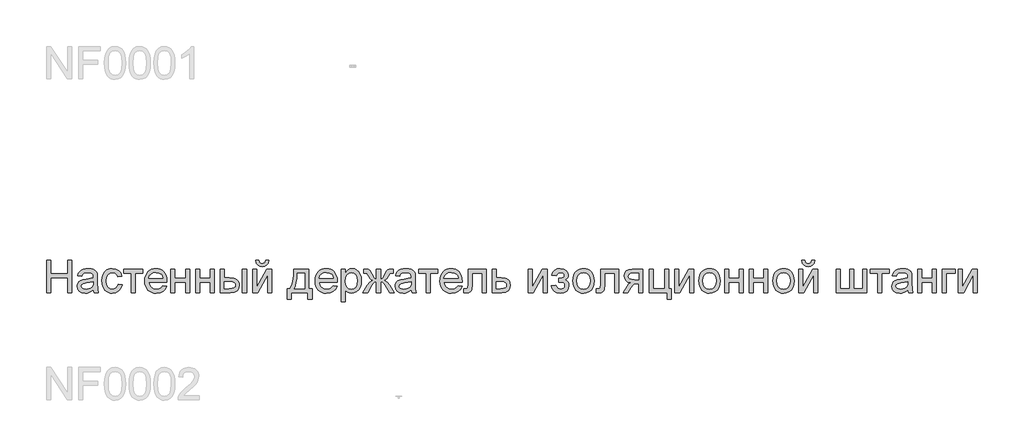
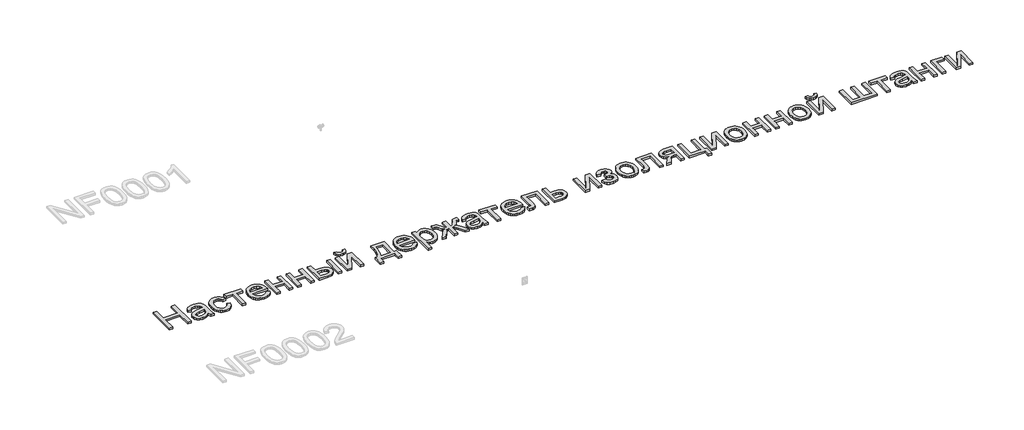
# One storey, part 35 of 124: 1 proxy.
"""IFC4 building model written with IfcOpenShell, lengths in millimetres."""

from ifc_helpers import new_model, si_unit, origin, origin_with_axes, place, context, project, spatial, polyline, outline, extrude, element, save

model = new_model("IFC4")

# Units and contexts
model_context = context("Model", 3, world=origin())
ifc_project = project(units=[si_unit("LENGTHUNIT", "METRE", prefix="MILLI")], contexts=[model_context])

# Site, building, storey
site = spatial("IfcSite", under=ifc_project)
building = spatial("IfcBuilding", under=site)
storey = spatial("IfcBuildingStorey", under=building, Name="Этаж 01", Elevation=0.0)

# Proxy
placement = place(None, origin())
element("IfcBuildingElementProxy", 1, Name="300", ObjectType="300", at=placement, inside=storey, context=model_context, shape_type="SweptSolid", body=[
    extrude(outline(polyline([(25399.8220677, -95548.8731539), (25399.8220677, -95247.5042234), (25437.493184, -95247.5042234), (25437.493184, -95369.9353514), (25597.5954283, -95369.9353514), (25597.5954283, -95247.5042234), (25635.2665446, -95247.5042234), (25635.2665446, -95548.8731539), (25597.5954283, -95548.8731539), (25597.5954283, -95407.6064677), (25437.493184, -95407.6064677), (25437.493184, -95548.8731539), (25399.8220677, -95548.8731539)])), origin_with_axes(), (0.0, 0.0, 1.0), 20.0),
    extrude(outline(polyline([(25837.7487948, -95520.6198167), (25819.7501681, -95536.0524664), (25801.2181126, -95546.1508271), (25781.7295639, -95551.7242393), (25760.8614578, -95553.5820434), (25729.379956, -95549.1122772), (25706.1574051, -95535.7029785), (25691.8375984, -95515.34071), (25687.0643295, -95490.0120347), (25688.8669513, -95474.395444), (25694.2748166, -95460.213593), (25702.6165409, -95448.0734872), (25713.2207394, -95438.5821317), (25739.5978784, -95426.2212967), (25772.1922232, -95420.555914), (25810.7094681, -95414.5962256), (25837.5280656, -95407.6064677), (25837.7487948, -95399.2187582), (25835.1552267, -95382.4065511), (25827.3745225, -95371.4068794), (25809.9737041, -95363.2398991), (25785.7302806, -95360.5175724), (25763.2894789, -95362.3293912), (25747.6177059, -95367.7648477), (25736.930734, -95377.8172232), (25729.4443354, -95393.4797991), (25691.7732191, -95388.7709096), (25698.3123215, -95368.1695179), (25708.0703915, -95351.9827101), (25721.9579368, -95339.6034809), (25740.8854654, -95330.4248251), (25764.03444, -95324.7410483), (25790.586323, -95322.846456), (25816.0529541, -95324.5203191), (25836.2404786, -95329.5419084), (25851.4615961, -95337.0926863), (25862.0290064, -95346.3541155), (25869.0371584, -95357.8044426), (25873.5805011, -95371.9219142), (25875.4199111, -95404.884141), (25875.4199111, -95451.7523072), (25877.3328974, -95517.1985141), (25884.8376901, -95548.8731539), (25847.1665738, -95548.8731539), (25837.7487948, -95520.6198167)]), holes=[polyline([(25837.7487948, -95445.277584), (25776.9746891, -95456.8290787), (25744.5642854, -95462.9359198), (25729.8857938, -95472.8687337), (25724.7354458, -95487.3632843), (25727.540546, -95498.565291), (25735.9558467, -95507.7439468), (25749.7974068, -95513.869182), (25768.8812853, -95515.9109271), (25789.114795, -95513.6576499), (25806.99386, -95506.8978182), (25821.4884106, -95496.9374132), (25831.5683772, -95485.0824159), (25836.0381435, -95472.8687337), (25837.5280656, -95455.9461619), (25837.7487948, -95445.277584)])]), origin_with_axes(), (0.0, 0.0, 1.0), 20.0),
    extrude(outline(polyline([(26068.4843821, -95468.8220317), (26106.1554984, -95473.5309213), (26095.6524675, -95507.035774), (26075.9155984, -95532.3552523), (26048.8026954, -95548.2753456), (26016.1715624, -95553.5820434), (25995.0436396, -95551.7311371), (25976.1000161, -95546.1784183), (25959.3406919, -95536.9238868), (25944.7656671, -95523.9675428), (25932.9681514, -95507.553108), (25924.5413545, -95487.9243043), (25919.4852763, -95465.0811317), (25917.7999169, -95439.0235901), (25920.6785935, -95405.5003433), (25929.3146234, -95376.4468627), (25943.8459622, -95352.9851885), (25964.4105657, -95336.2373607), (25989.0126741, -95326.1941822), (26015.6565276, -95322.846456), (26047.4875173, -95327.444981), (26072.9357543, -95341.2405558), (26091.1918983, -95363.4974165), (26101.4466089, -95393.4797991), (26063.7754926, -95398.1886887), (26056.9420845, -95381.7535605), (26046.3010978, -95369.9721396), (26032.4411436, -95362.8812142), (26015.9508332, -95360.5175724), (25991.6062422, -95365.1712796), (25972.2832404, -95379.1324013), (25959.674085, -95403.1550956), (25955.4710332, -95437.9935205), (25959.5821145, -95473.300995), (25971.9153584, -95497.4064628), (25990.8888723, -95511.284811), (26014.9207636, -95515.9109271), (26034.4277064, -95513.0230535), (26050.4213762, -95504.3594325), (26062.0556443, -95489.699335), (26068.4843821, -95468.8220317)])), origin_with_axes(), (0.0, 0.0, 1.0), 20.0),
    extrude(outline(polyline([(26120.282167, -95327.5553456), (26299.2199695, -95327.5553456), (26299.2199695, -95365.2264619), (26228.5866264, -95365.2264619), (26228.5866264, -95548.8731539), (26190.9155101, -95548.8731539), (26190.9155101, -95365.2264619), (26120.282167, -95365.2264619), (26120.282167, -95327.5553456)])), origin_with_axes(), (0.0, 0.0, 1.0), 20.0),
    extrude(outline(polyline([(26487.1340926, -95482.9487003), (26524.069445, -95487.6575899), (26510.7613138, -95515.4878628), (26489.5253256, -95536.2915897), (26460.839727, -95549.25943), (26425.1827647, -95553.5820434), (26401.8084624, -95551.7173416), (26380.9817429, -95546.123236), (26362.7026063, -95536.7997267), (26346.9710525, -95523.7468136), (26334.3205104, -95507.3277803), (26325.2844089, -95487.9059102), (26319.862748, -95465.4812034), (26318.0555277, -95440.0536597), (26319.8811421, -95413.7638926), (26325.3579853, -95390.5919255), (26334.4860573, -95370.5377582), (26347.2653581, -95353.6013908), (26362.9555252, -95340.1461069), (26380.816196, -95330.5351897), (26400.8473707, -95324.7686395), (26423.0490491, -95322.846456), (26444.5356569, -95324.7640409), (26463.966724, -95330.5167956), (26481.3422505, -95340.1047201), (26496.6622363, -95353.5278144), (26509.1679249, -95370.4273936), (26518.1005596, -95390.4447727), (26523.4601404, -95413.5799516), (26525.2466673, -95439.8329305), (26525.0259381, -95449.9864736), (26355.726644, -95449.9864736), (26362.2473523, -95478.1846285), (26377.3948935, -95498.9147789), (26399.256281, -95511.6618901), (26425.9185286, -95515.9109271), (26445.9680974, -95513.9427584), (26462.853881, -95508.0382524), (26476.5758794, -95497.8295271), (26487.1340926, -95482.9487003)]), holes=[polyline([(26355.726644, -95412.3153573), (26487.575551, -95412.3153573), (26482.4803854, -95392.4129413), (26472.4923892, -95378.1759081), (26450.5298341, -95364.9321563), (26422.9018963, -95360.5175724), (26397.5088416, -95364.0400425), (26376.5119767, -95374.6074528), (26361.9162585, -95391.0793691), (26355.726644, -95412.3153573)])]), origin_with_axes(), (0.0, 0.0, 1.0), 20.0),
    extrude(outline(polyline([(26562.9177836, -95327.5553456), (26600.5889, -95327.5553456), (26600.5889, -95412.3153573), (26699.4755803, -95412.3153573), (26699.4755803, -95327.5553456), (26737.1466966, -95327.5553456), (26737.1466966, -95548.8731539), (26699.4755803, -95548.8731539), (26699.4755803, -95449.9864736), (26600.5889, -95449.9864736), (26600.5889, -95548.8731539), (26562.9177836, -95548.8731539), (26562.9177836, -95327.5553456)])), origin_with_axes(), (0.0, 0.0, 1.0), 20.0),
    extrude(outline(polyline([(26793.653371, -95327.5553456), (26831.3244873, -95327.5553456), (26831.3244873, -95412.3153573), (26930.2111676, -95412.3153573), (26930.2111676, -95327.5553456), (26967.8822839, -95327.5553456), (26967.8822839, -95548.8731539), (26930.2111676, -95548.8731539), (26930.2111676, -95449.9864736), (26831.3244873, -95449.9864736), (26831.3244873, -95548.8731539), (26793.653371, -95548.8731539), (26793.653371, -95327.5553456)])), origin_with_axes(), (0.0, 0.0, 1.0), 20.0),
    extrude(outline(polyline([(27231.5800981, -95327.5553456), (27269.2512144, -95327.5553456), (27269.2512144, -95548.8731539), (27231.5800981, -95548.8731539), (27231.5800981, -95327.5553456)])), origin_with_axes(), (0.0, 0.0, 1.0), 20.0),
    extrude(outline(polyline([(27024.3889584, -95327.5553456), (27062.0600747, -95327.5553456), (27062.0600747, -95407.6064677), (27108.6339353, -95407.6064677), (27148.8894226, -95412.3245543), (27165.1061208, -95418.2221626), (27178.7154554, -95426.4788141), (27189.4829015, -95436.8094004), (27197.1739345, -95448.9288128), (27201.7885543, -95462.8370515), (27203.3267608, -95478.5341164), (27198.1672159, -95505.4906696), (27182.6885809, -95528.234974), (27170.8266858, -95537.2641777), (27155.8791805, -95543.7136089), (27116.7273392, -95548.8731539), (27024.3889584, -95548.8731539), (27024.3889584, -95327.5553456)]), holes=[polyline([(27062.0600747, -95511.2020376), (27100.7612606, -95511.2020376), (27130.7620373, -95509.2246719), (27150.7196355, -95503.2925747), (27161.9216423, -95493.1666228), (27165.6556445, -95478.6076928), (27162.8873325, -95466.3020401), (27154.5823965, -95455.4311271), (27136.8228932, -95447.8159698), (27105.6908793, -95445.277584), (27062.0600747, -95445.277584), (27062.0600747, -95511.2020376)])]), origin_with_axes(), (0.0, 0.0, 1.0), 20.0),
    extrude(outline(polyline([(27448.1890168, -95247.5042234), (27476.4423541, -95247.5042234), (27470.3631041, -95271.6280853), (27458.1586189, -95289.4059827), (27440.3807215, -95300.3596691), (27417.5812348, -95304.0108979), (27392.8411707, -95300.3872602), (27373.6561246, -95289.5163473), (27360.5411315, -95271.766041), (27354.0112261, -95247.5042234), (27382.2645633, -95247.5042234), (27386.2376889, -95259.9110437), (27392.8595648, -95268.7310146), (27402.1669792, -95274.0009241), (27414.1967205, -95275.7575607), (27427.7715661, -95274.0561064), (27437.5940154, -95268.9517438), (27444.2158913, -95260.1869552), (27448.1890168, -95247.5042234)])), origin_with_axes(), (0.0, 0.0, 1.0), 20.0),
    extrude(outline(polyline([(27325.7578888, -95327.5553456), (27363.4290051, -95327.5553456), (27363.4290051, -95496.339605), (27455.9881151, -95327.5553456), (27504.6956913, -95327.5553456), (27504.6956913, -95548.8731539), (27467.024575, -95548.8731539), (27467.024575, -95381.1189641), (27375.0540762, -95548.8731539), (27325.7578888, -95548.8731539), (27325.7578888, -95327.5553456)])), origin_with_axes(), (0.0, 0.0, 1.0), 20.0),
    extrude(outline(polyline([(27711.886831, -95327.5553456), (27853.1535171, -95327.5553456), (27853.1535171, -95511.2020376), (27881.4068544, -95511.2020376), (27881.4068544, -95610.0887179), (27843.7357381, -95610.0887179), (27843.7357381, -95548.8731539), (27688.3423833, -95548.8731539), (27688.3423833, -95610.0887179), (27650.671267, -95610.0887179), (27650.671267, -95511.2020376), (27674.2157147, -95511.2020376), (27691.3314245, -95480.2723588), (27703.3151805, -95439.3546839), (27710.1669827, -95388.4490128), (27711.886831, -95327.5553456)]), holes=[polyline([(27744.8490577, -95365.2264619), (27741.758849, -95411.349667), (27736.0198899, -95451.0533314), (27727.6321804, -95484.3374549), (27716.5957205, -95511.2020376), (27815.4824008, -95511.2020376), (27815.4824008, -95365.2264619), (27744.8490577, -95365.2264619)])]), origin_with_axes(), (0.0, 0.0, 1.0), 20.0),
    extrude(outline(polyline([(28078.7387566, -95482.9487003), (28115.6741089, -95487.6575899), (28102.3659777, -95515.4878628), (28081.1299895, -95536.2915897), (28052.444391, -95549.25943), (28016.7874286, -95553.5820434), (27993.4131263, -95551.7173416), (27972.5864069, -95546.123236), (27954.3072702, -95536.7997267), (27938.5757164, -95523.7468136), (27925.9251743, -95507.3277803), (27916.8890728, -95487.9059102), (27911.4674119, -95465.4812034), (27909.6601916, -95440.0536597), (27911.485806, -95413.7638926), (27916.9626492, -95390.5919255), (27926.0907212, -95370.5377582), (27938.870022, -95353.6013908), (27954.5601891, -95340.1461069), (27972.42086, -95330.5351897), (27992.4520346, -95324.7686395), (28014.653713, -95322.846456), (28036.1403208, -95324.7640409), (28055.5713879, -95330.5167956), (28072.9469144, -95340.1047201), (28088.2669002, -95353.5278144), (28100.7725888, -95370.4273936), (28109.7052235, -95390.4447727), (28115.0648043, -95413.5799516), (28116.8513313, -95439.8329305), (28116.6306021, -95449.9864736), (27947.3313079, -95449.9864736), (27953.8520163, -95478.1846285), (27968.9995574, -95498.9147789), (27990.860945, -95511.6618901), (28017.5231926, -95515.9109271), (28037.5727613, -95513.9427584), (28054.4585449, -95508.0382524), (28068.1805433, -95497.8295271), (28078.7387566, -95482.9487003)]), holes=[polyline([(27947.3313079, -95412.3153573), (28079.180215, -95412.3153573), (28074.0850493, -95392.4129413), (28064.0970532, -95378.1759081), (28042.1344981, -95364.9321563), (28014.5065602, -95360.5175724), (27989.1135055, -95364.0400425), (27968.1166406, -95374.6074528), (27953.5209225, -95391.0793691), (27947.3313079, -95412.3153573)])]), origin_with_axes(), (0.0, 0.0, 1.0), 20.0),
    extrude(outline(polyline([(28154.5224476, -95633.6331656), (28154.5224476, -95327.5553456), (28192.1935639, -95327.5553456), (28192.1935639, -95364.4906979), (28204.4808225, -95346.2713421), (28218.2396091, -95333.2575165), (28234.2792641, -95325.4492212), (28253.4091279, -95322.846456), (28278.884956, -95326.4884878), (28301.1602109, -95337.4145831), (28319.2967932, -95354.9625542), (28332.356604, -95378.4702137), (28340.2476728, -95406.2269103), (28342.8780291, -95436.5219926), (28339.907382, -95468.7392583), (28330.9954407, -95497.5536156), (28316.4273137, -95521.5027334), (28296.4881095, -95539.124281), (28273.2655586, -95549.9676028), (28248.8473911, -95553.5820434), (28231.5293462, -95551.1632193), (28216.0691054, -95543.906747), (28202.8345506, -95532.9530605), (28192.1935639, -95519.4425943), (28192.1935639, -95633.6331656), (28154.5224476, -95633.6331656)]), holes=[polyline([(28192.1935639, -95439.9800833), (28196.267857, -95473.7516505), (28208.4907363, -95497.3696746), (28226.5261511, -95511.275614), (28248.0380508, -95515.9109271), (28269.8994383, -95511.1100671), (28288.3947056, -95496.707487), (28301.003861, -95472.2249402), (28305.2069128, -95437.1841801), (28301.1050286, -95403.596554), (28288.7993758, -95379.6474361), (28270.7915522, -95365.3000383), (28249.5831551, -95360.5175724), (28228.2919847, -95365.6035409), (28209.5943823, -95380.8614467), (28196.5437685, -95405.813043), (28192.1935639, -95439.9800833)])]), origin_with_axes(), (0.0, 0.0, 1.0), 20.0),
    extrude(outline(polyline([(28521.8158316, -95327.5553456), (28521.8158316, -95421.7331364), (28535.1055686, -95419.7925588), (28543.7783867, -95413.9708263), (28564.5637194, -95373.6877478), (28577.5315597, -95348.5798016), (28589.3589659, -95335.0601383), (28603.7247578, -95329.4315438), (28624.602061, -95327.5553456), (28639.53807, -95327.5553456), (28639.53807, -95365.4471911), (28629.1637978, -95365.2264619), (28609.7396284, -95369.126011), (28596.2751474, -95393.5533755), (28580.6401626, -95420.3351848), (28558.3097255, -95433.9468186), (28570.7027502, -95439.2489178), (28582.9394251, -95448.6069161), (28606.9437252, -95479.4906096), (28648.9558491, -95548.8731539), (28605.7665029, -95548.8731539), (28564.4165666, -95480.4471028), (28553.1133923, -95462.4852644), (28543.3369283, -95452.0098246), (28533.4500997, -95446.9606442), (28521.8158316, -95445.277584), (28521.8158316, -95548.8731539), (28484.1447153, -95548.8731539), (28484.1447153, -95445.277584), (28472.6024177, -95446.923856), (28462.6971949, -95451.8626718), (28452.8471545, -95462.2645352), (28441.4704038, -95480.29995), (28400.1204676, -95548.8731539), (28357.0046977, -95548.8731539), (28398.8696688, -95479.4906096), (28423.05791, -95448.6069161), (28435.3589642, -95439.2489178), (28447.7979741, -95433.9468186), (28433.4137881, -95426.7363315), (28424.1063736, -95418.9372332), (28403.7992875, -95380.3096237), (28393.8664736, -95367.5809067), (28377.6060895, -95365.0057327), (28366.4224768, -95365.2264619), (28366.4224768, -95327.5553456), (28372.0878595, -95327.5553456), (28405.1236627, -95329.9097904), (28422.2669637, -95339.9161806), (28441.4704038, -95373.6877478), (28462.0350073, -95413.7133089), (28470.7078254, -95419.7281795), (28484.1447153, -95421.7331364), (28484.1447153, -95327.5553456), (28521.8158316, -95327.5553456)])), origin_with_axes(), (0.0, 0.0, 1.0), 20.0),
    extrude(outline(polyline([(28809.0580934, -95520.6198167), (28791.0594668, -95536.0524664), (28772.5274113, -95546.1508271), (28753.0388626, -95551.7242393), (28732.1707564, -95553.5820434), (28700.6892547, -95549.1122772), (28677.4667037, -95535.7029785), (28663.1468971, -95515.34071), (28658.3736282, -95490.0120347), (28660.1762499, -95474.395444), (28665.5841153, -95460.213593), (28673.9258395, -95448.0734872), (28684.530038, -95438.5821317), (28710.9071771, -95426.2212967), (28743.5015219, -95420.555914), (28782.0187668, -95414.5962256), (28808.8373642, -95407.6064677), (28809.0580934, -95399.2187582), (28806.4645253, -95382.4065511), (28798.6838211, -95371.4068794), (28781.2830028, -95363.2398991), (28757.0395793, -95360.5175724), (28734.5987776, -95362.3293912), (28718.9270046, -95367.7648477), (28708.2400326, -95377.8172232), (28700.753634, -95393.4797991), (28663.0825177, -95388.7709096), (28669.6216202, -95368.1695179), (28679.3796901, -95351.9827101), (28693.2672354, -95339.6034809), (28712.1947641, -95330.4248251), (28735.3437386, -95324.7410483), (28761.8956216, -95322.846456), (28787.3622527, -95324.5203191), (28807.5497772, -95329.5419084), (28822.7708948, -95337.0926863), (28833.3383051, -95346.3541155), (28840.3464571, -95357.8044426), (28844.8897997, -95371.9219142), (28846.7292097, -95404.884141), (28846.7292097, -95451.7523072), (28848.6421961, -95517.1985141), (28856.1469888, -95548.8731539), (28818.4758725, -95548.8731539), (28809.0580934, -95520.6198167)]), holes=[polyline([(28809.0580934, -95445.277584), (28748.2839878, -95456.8290787), (28715.873584, -95462.9359198), (28701.1950924, -95472.8687337), (28696.0447445, -95487.3632843), (28698.8498447, -95498.565291), (28707.2651453, -95507.7439468), (28721.1067054, -95513.869182), (28740.1905839, -95515.9109271), (28760.4240936, -95513.6576499), (28778.3031586, -95506.8978182), (28792.7977092, -95496.9374132), (28802.8776759, -95485.0824159), (28807.3474421, -95472.8687337), (28808.8373642, -95455.9461619), (28809.0580934, -95445.277584)])]), origin_with_axes(), (0.0, 0.0, 1.0), 20.0),
    extrude(outline(polyline([(28879.6914365, -95327.5553456), (29058.6292389, -95327.5553456), (29058.6292389, -95365.2264619), (28987.9958959, -95365.2264619), (28987.9958959, -95548.8731539), (28950.3247795, -95548.8731539), (28950.3247795, -95365.2264619), (28879.6914365, -95365.2264619), (28879.6914365, -95327.5553456)])), origin_with_axes(), (0.0, 0.0, 1.0), 20.0),
    extrude(outline(polyline([(29246.5433621, -95482.9487003), (29283.4787144, -95487.6575899), (29270.1705832, -95515.4878628), (29248.934595, -95536.2915897), (29220.2489965, -95549.25943), (29184.5920341, -95553.5820434), (29161.2177318, -95551.7173416), (29140.3910124, -95546.123236), (29122.1118757, -95536.7997267), (29106.3803219, -95523.7468136), (29093.7297798, -95507.3277803), (29084.6936783, -95487.9059102), (29079.2720174, -95465.4812034), (29077.4647971, -95440.0536597), (29079.2904115, -95413.7638926), (29084.7672547, -95390.5919255), (29093.8953267, -95370.5377582), (29106.6746275, -95353.6013908), (29122.3647946, -95340.1461069), (29140.2254655, -95330.5351897), (29160.2566401, -95324.7686395), (29182.4583185, -95322.846456), (29203.9449263, -95324.7640409), (29223.3759934, -95330.5167956), (29240.7515199, -95340.1047201), (29256.0715057, -95353.5278144), (29268.5771943, -95370.4273936), (29277.509829, -95390.4447727), (29282.8694098, -95413.5799516), (29284.6559368, -95439.8329305), (29284.4352076, -95449.9864736), (29115.1359134, -95449.9864736), (29121.6566217, -95478.1846285), (29136.8041629, -95498.9147789), (29158.6655505, -95511.6618901), (29185.3277981, -95515.9109271), (29205.3773668, -95513.9427584), (29222.2631504, -95508.0382524), (29235.9851488, -95497.8295271), (29246.5433621, -95482.9487003)]), holes=[polyline([(29115.1359134, -95412.3153573), (29246.9848205, -95412.3153573), (29241.8896548, -95392.4129413), (29231.9016587, -95378.1759081), (29209.9391035, -95364.9321563), (29182.3111657, -95360.5175724), (29156.918111, -95364.0400425), (29135.9212461, -95374.6074528), (29121.325528, -95391.0793691), (29115.1359134, -95412.3153573)])]), origin_with_axes(), (0.0, 0.0, 1.0), 20.0),
    extrude(outline(polyline([(29341.1626112, -95327.5553456), (29510.6826346, -95327.5553456), (29510.6826346, -95548.6524247), (29473.0115183, -95548.6524247), (29473.0115183, -95365.2264619), (29378.8337275, -95365.2264619), (29378.8337275, -95470.8085945), (29376.2953418, -95519.5161707), (29371.540467, -95530.5434335), (29362.3526141, -95540.0807742), (29348.4098865, -95546.675059), (29329.3903874, -95548.8731539), (29298.7826054, -95546.9601675), (29298.7826054, -95511.2020376), (29315.6316008, -95511.2020376), (29332.6645371, -95508.884381), (29339.470354, -95501.5267411), (29341.1626112, -95468.6748789), (29341.1626112, -95327.5553456)])), origin_with_axes(), (0.0, 0.0, 1.0), 20.0),
    extrude(outline(polyline([(29567.1893091, -95327.5553456), (29604.8604254, -95327.5553456), (29604.8604254, -95407.6064677), (29648.2705008, -95407.6064677), (29685.9048289, -95412.3245543), (29701.0523701, -95418.2221626), (29713.7534959, -95426.4788141), (29723.7966744, -95436.8094004), (29730.9703733, -95448.9288128), (29736.7093324, -95478.5341164), (29731.8256989, -95505.4906696), (29717.1747985, -95528.234974), (29705.9429013, -95537.2641777), (29691.7817438, -95543.7136089), (29654.6716475, -95548.8731539), (29567.1893091, -95548.8731539), (29567.1893091, -95327.5553456)]), holes=[polyline([(29604.8604254, -95511.2020376), (29640.0299441, -95511.2020376), (29667.3175911, -95509.2246719), (29685.4633705, -95503.2925747), (29695.6445047, -95493.1666228), (29699.0382161, -95478.6076928), (29696.5274215, -95466.3020401), (29688.9950377, -95455.4311271), (29672.8542151, -95447.8159698), (29644.5181044, -95445.277584), (29604.8604254, -95445.277584), (29604.8604254, -95511.2020376)])]), origin_with_axes(), (0.0, 0.0, 1.0), 20.0),
    extrude(outline(polyline([(29901.5204663, -95327.5553456), (29939.1915826, -95327.5553456), (29939.1915826, -95496.339605), (30031.7506926, -95327.5553456), (30080.4582687, -95327.5553456), (30080.4582687, -95548.8731539), (30042.7871524, -95548.8731539), (30042.7871524, -95381.1189641), (29950.8166536, -95548.8731539), (29901.5204663, -95548.8731539), (29901.5204663, -95327.5553456)])), origin_with_axes(), (0.0, 0.0, 1.0), 20.0),
    extrude(outline(polyline([(30188.7627281, -95449.9864736), (30188.7627281, -95412.3153573), (30218.4875933, -95410.8438293), (30233.4971787, -95403.0079428), (30238.7946795, -95395.6594999), (30240.560513, -95386.637194), (30238.1968712, -95375.9226309), (30231.1059458, -95367.6176949), (30220.281018, -95362.292603), (30206.7153695, -95360.5175724), (30193.0025681, -95362.2834059), (30181.5154528, -95367.5809067), (30172.2540236, -95376.4100745), (30165.2182804, -95388.7709096), (30122.8382746, -95384.06202), (30134.0770695, -95357.2802108), (30151.1651882, -95338.150347), (30174.1026306, -95326.6724288), (30202.8893967, -95322.846456), (30234.3800955, -95327.5093603), (30258.2188488, -95341.4980732), (30273.2284342, -95361.9615092), (30278.2316293, -95386.0485828), (30276.4520002, -95398.4094179), (30271.1131127, -95409.4458777), (30262.214967, -95419.1579624), (30249.7575629, -95427.5456719), (30264.2980988, -95438.0119146), (30274.663174, -95451.0165432), (30280.8711826, -95466.5963457), (30282.9405189, -95484.7881103), (30277.6890034, -95512.5172157), (30261.9344569, -95534.4889679), (30236.7437373, -95548.8087745), (30203.1837023, -95553.5820434), (30170.3594313, -95549.1674595), (30145.2422881, -95535.9237077), (30127.8322727, -95513.8507879), (30118.129385, -95482.9487003), (30160.5093909, -95478.2398108), (30166.8553553, -95494.1691012), (30177.5055391, -95506.0516896), (30191.2275375, -95513.4461178), (30206.7889459, -95515.9109271), (30221.9456841, -95513.5472853), (30234.3065191, -95506.4563598), (30242.5286817, -95495.6866144), (30245.2694026, -95482.2865128), (30243.5679483, -95471.6731172), (30238.4635857, -95462.4944614), (30223.969035, -95451.89946), (30196.120368, -95449.7657444), (30188.7627281, -95449.9864736)])), origin_with_axes(), (0.0, 0.0, 1.0), 20.0),
    extrude(outline(polyline([(30320.6116352, -95438.2142497), (30322.6487817, -95409.5516438), (30328.7602214, -95384.8529663), (30338.9459541, -95364.1182174), (30353.20598, -95347.3473969), (30367.5625748, -95336.6282353), (30383.4090918, -95328.9716913), (30400.7455308, -95324.3777649), (30419.5718919, -95322.846456), (30440.3549253, -95324.7111579), (30459.1467975, -95330.3052635), (30475.9475084, -95339.6287728), (30490.7570579, -95352.6816859), (30502.8442808, -95369.0225442), (30511.4780113, -95388.2098895), (30516.6582497, -95410.2437218), (30518.3849958, -95435.124041), (30515.3315752, -95473.1814334), (30506.1713135, -95502.1521405), (30491.1709252, -95523.8479812), (30470.5971246, -95540.0807742), (30446.1605631, -95550.2067261), (30419.5718919, -95553.5820434), (30398.4853558, -95551.7242393), (30379.5187397, -95546.1508271), (30362.6720435, -95536.8618067), (30347.9452674, -95523.8571782), (30335.9868033, -95507.3576707), (30327.4450432, -95487.5840135), (30322.3199872, -95464.5362065), (30320.6116352, -95438.2142497)]), holes=[polyline([(30358.2827515, -95438.1406733), (30362.6421531, -95472.2341372), (30375.7203581, -95496.523546), (30395.4020448, -95511.0640818), (30419.5718919, -95515.9109271), (30443.6313744, -95511.0364907), (30463.2762729, -95496.4131814), (30476.3544778, -95471.8018759), (30480.7138795, -95436.963451), (30476.3268867, -95403.8632684), (30463.1659083, -95379.9049535), (30443.4934186, -95365.3644176), (30419.5718919, -95360.5175724), (30395.4020448, -95365.3460235), (30375.7203581, -95379.8313771), (30362.6421531, -95404.0656035), (30358.2827515, -95438.1406733)])]), origin_with_axes(), (0.0, 0.0, 1.0), 20.0),
    extrude(outline(polyline([(30579.6005598, -95327.5553456), (30749.1205832, -95327.5553456), (30749.1205832, -95548.6524247), (30711.4494669, -95548.6524247), (30711.4494669, -95365.2264619), (30617.2716761, -95365.2264619), (30617.2716761, -95470.8085945), (30614.7332903, -95519.5161707), (30609.9784155, -95530.5434335), (30600.7905627, -95540.0807742), (30586.8478351, -95546.675059), (30567.8283359, -95548.8731539), (30537.2205539, -95546.9601675), (30537.2205539, -95511.2020376), (30554.0695493, -95511.2020376), (30571.1024857, -95508.884381), (30577.9083026, -95501.5267411), (30579.6005598, -95468.6748789), (30579.6005598, -95327.5553456)])), origin_with_axes(), (0.0, 0.0, 1.0), 20.0),
    extrude(outline(polyline([(30975.147281, -95327.5553456), (30975.147281, -95548.8731539), (30937.4761647, -95548.8731539), (30937.4761647, -95464.1131422), (30916.9483494, -95464.1131422), (30888.9893177, -95468.8956081), (30877.8240992, -95479.3250627), (30862.7225433, -95501.0484945), (30832.7033725, -95548.8731539), (30789.1461442, -95548.8731539), (30826.9644133, -95488.3933539), (30843.6662559, -95466.6883162), (30859.0437233, -95457.0498079), (30833.2919837, -95449.1587391), (30815.1921895, -95434.1675478), (30804.4868234, -95414.2283437), (30800.9183681, -95391.4932363), (30805.7928045, -95365.7047085), (30820.4161138, -95345.2872578), (30844.2732612, -95331.9883236), (30876.8492119, -95327.5553456), (30975.147281, -95327.5553456)]), holes=[polyline([(30937.4761647, -95365.2264619), (30887.8120953, -95365.2264619), (30862.1615232, -95367.4061627), (30847.6025933, -95373.9452652), (30840.8427616, -95383.4090295), (30838.5894844, -95394.3627159), (30841.9096194, -95408.7193108), (30851.8700244, -95418.6797158), (30870.2733212, -95424.5014484), (30898.9221316, -95426.4420259), (30937.4761647, -95426.4420259), (30937.4761647, -95365.2264619)])]), origin_with_axes(), (0.0, 0.0, 1.0), 20.0),
    extrude(outline(polyline([(31031.6539555, -95327.5553456), (31069.3250718, -95327.5553456), (31069.3250718, -95511.2020376), (31177.6295311, -95511.2020376), (31177.6295311, -95327.5553456), (31215.3006474, -95327.5553456), (31215.3006474, -95511.2020376), (31238.8450951, -95511.2020376), (31238.8450951, -95610.0887179), (31201.1739788, -95610.0887179), (31201.1739788, -95548.8731539), (31031.6539555, -95548.8731539), (31031.6539555, -95327.5553456)])), origin_with_axes(), (0.0, 0.0, 1.0), 20.0),
    extrude(outline(polyline([(31271.8073219, -95327.5553456), (31309.4784382, -95327.5553456), (31309.4784382, -95496.339605), (31402.0375482, -95327.5553456), (31450.7451244, -95327.5553456), (31450.7451244, -95548.8731539), (31413.0740081, -95548.8731539), (31413.0740081, -95381.1189641), (31321.1035093, -95548.8731539), (31271.8073219, -95548.8731539), (31271.8073219, -95327.5553456)])), origin_with_axes(), (0.0, 0.0, 1.0), 20.0),
    extrude(outline(polyline([(31497.8340197, -95438.2142497), (31499.8711663, -95409.5516438), (31505.9826059, -95384.8529663), (31516.1683387, -95364.1182174), (31530.4283645, -95347.3473969), (31544.7849594, -95336.6282353), (31560.6314763, -95328.9716913), (31577.9679153, -95324.3777649), (31596.7942764, -95322.846456), (31617.5773099, -95324.7111579), (31636.3691821, -95330.3052635), (31653.1698929, -95339.6287728), (31667.9794425, -95352.6816859), (31680.0666653, -95369.0225442), (31688.7003959, -95388.2098895), (31693.8806342, -95410.2437218), (31695.6073804, -95435.124041), (31692.5539598, -95473.1814334), (31683.3936981, -95502.1521405), (31668.3933098, -95523.8479812), (31647.8195092, -95540.0807742), (31623.3829476, -95550.2067261), (31596.7942764, -95553.5820434), (31575.7077403, -95551.7242393), (31556.7411242, -95546.1508271), (31539.8944281, -95536.8618067), (31525.167652, -95523.8571782), (31513.2091879, -95507.3576707), (31504.6674278, -95487.5840135), (31499.5423718, -95464.5362065), (31497.8340197, -95438.2142497)]), holes=[polyline([(31535.5051361, -95438.1406733), (31539.8645377, -95472.2341372), (31552.9427426, -95496.523546), (31572.6244294, -95511.0640818), (31596.7942764, -95515.9109271), (31620.8537589, -95511.0364907), (31640.4986575, -95496.4131814), (31653.5768624, -95471.8018759), (31657.936264, -95436.963451), (31653.5492713, -95403.8632684), (31640.3882929, -95379.9049535), (31620.7158032, -95365.3644176), (31596.7942764, -95360.5175724), (31572.6244294, -95365.3460235), (31552.9427426, -95379.8313771), (31539.8645377, -95404.0656035), (31535.5051361, -95438.1406733)])]), origin_with_axes(), (0.0, 0.0, 1.0), 20.0),
    extrude(outline(polyline([(31737.9873862, -95327.5553456), (31775.6585025, -95327.5553456), (31775.6585025, -95412.3153573), (31874.5451828, -95412.3153573), (31874.5451828, -95327.5553456), (31912.2162991, -95327.5553456), (31912.2162991, -95548.8731539), (31874.5451828, -95548.8731539), (31874.5451828, -95449.9864736), (31775.6585025, -95449.9864736), (31775.6585025, -95548.8731539), (31737.9873862, -95548.8731539), (31737.9873862, -95327.5553456)])), origin_with_axes(), (0.0, 0.0, 1.0), 20.0),
    extrude(outline(polyline([(31968.7229736, -95327.5553456), (32006.3940899, -95327.5553456), (32006.3940899, -95412.3153573), (32105.2807702, -95412.3153573), (32105.2807702, -95327.5553456), (32142.9518865, -95327.5553456), (32142.9518865, -95548.8731539), (32105.2807702, -95548.8731539), (32105.2807702, -95449.9864736), (32006.3940899, -95449.9864736), (32006.3940899, -95548.8731539), (31968.7229736, -95548.8731539), (31968.7229736, -95327.5553456)])), origin_with_axes(), (0.0, 0.0, 1.0), 20.0),
    extrude(outline(polyline([(32190.0407819, -95438.2142497), (32192.0779284, -95409.5516438), (32198.1893681, -95384.8529663), (32208.3751008, -95364.1182174), (32222.6351266, -95347.3473969), (32236.9917215, -95336.6282353), (32252.8382384, -95328.9716913), (32270.1746775, -95324.3777649), (32289.0010386, -95322.846456), (32309.784072, -95324.7111579), (32328.5759442, -95330.3052635), (32345.3766551, -95339.6287728), (32360.1862046, -95352.6816859), (32372.2734274, -95369.0225442), (32380.907158, -95388.2098895), (32386.0873964, -95410.2437218), (32387.8141425, -95435.124041), (32384.7607219, -95473.1814334), (32375.6004602, -95502.1521405), (32360.6000719, -95523.8479812), (32340.0262713, -95540.0807742), (32315.5897098, -95550.2067261), (32289.0010386, -95553.5820434), (32267.9145025, -95551.7242393), (32248.9478863, -95546.1508271), (32232.1011902, -95536.8618067), (32217.3744141, -95523.8571782), (32205.41595, -95507.3576707), (32196.8741899, -95487.5840135), (32191.7491339, -95464.5362065), (32190.0407819, -95438.2142497)]), holes=[polyline([(32227.7118982, -95438.1406733), (32232.0712998, -95472.2341372), (32245.1495047, -95496.523546), (32264.8311915, -95511.0640818), (32289.0010386, -95515.9109271), (32313.0605211, -95511.0364907), (32332.7054196, -95496.4131814), (32345.7836245, -95471.8018759), (32350.1430262, -95436.963451), (32345.7560334, -95403.8632684), (32332.595055, -95379.9049535), (32312.9225653, -95365.3644176), (32289.0010386, -95360.5175724), (32264.8311915, -95365.3460235), (32245.1495047, -95379.8313771), (32232.0712998, -95404.0656035), (32227.7118982, -95438.1406733)])]), origin_with_axes(), (0.0, 0.0, 1.0), 20.0),
    extrude(outline(polyline([(32552.6252763, -95247.5042234), (32580.8786135, -95247.5042234), (32574.7993636, -95271.6280853), (32562.5948784, -95289.4059827), (32544.816981, -95300.3596691), (32522.0174943, -95304.0108979), (32497.2774301, -95300.3872602), (32478.0923841, -95289.5163473), (32464.977391, -95271.766041), (32458.4474855, -95247.5042234), (32486.7008228, -95247.5042234), (32490.6739483, -95259.9110437), (32497.2958242, -95268.7310146), (32506.6032387, -95274.0009241), (32518.63298, -95275.7575607), (32532.2078256, -95274.0561064), (32542.0302749, -95268.9517438), (32548.6521508, -95260.1869552), (32552.6252763, -95247.5042234)])), origin_with_axes(), (0.0, 0.0, 1.0), 20.0),
    extrude(outline(polyline([(32430.1941483, -95327.5553456), (32467.8652646, -95327.5553456), (32467.8652646, -95496.339605), (32560.4243746, -95327.5553456), (32609.1319508, -95327.5553456), (32609.1319508, -95548.8731539), (32571.4608345, -95548.8731539), (32571.4608345, -95381.1189641), (32479.4903357, -95548.8731539), (32430.1941483, -95548.8731539), (32430.1941483, -95327.5553456)])), origin_with_axes(), (0.0, 0.0, 1.0), 20.0),
    extrude(outline(polyline([(32783.3608637, -95327.5553456), (32821.03198, -95327.5553456), (32821.03198, -95511.2020376), (32905.7919917, -95511.2020376), (32905.7919917, -95327.5553456), (32943.463108, -95327.5553456), (32943.463108, -95511.2020376), (33028.2231197, -95511.2020376), (33028.2231197, -95327.5553456), (33065.894236, -95327.5553456), (33065.894236, -95548.8731539), (32783.3608637, -95548.8731539), (32783.3608637, -95327.5553456)])), origin_with_axes(), (0.0, 0.0, 1.0), 20.0),
    extrude(outline(polyline([(33098.8564628, -95327.5553456), (33277.7942652, -95327.5553456), (33277.7942652, -95365.2264619), (33207.1609221, -95365.2264619), (33207.1609221, -95548.8731539), (33169.4898058, -95548.8731539), (33169.4898058, -95365.2264619), (33098.8564628, -95365.2264619), (33098.8564628, -95327.5553456)])), origin_with_axes(), (0.0, 0.0, 1.0), 20.0),
    extrude(outline(polyline([(33452.0231781, -95520.6198167), (33434.0245515, -95536.0524664), (33415.492496, -95546.1508271), (33396.0039473, -95551.7242393), (33375.1358411, -95553.5820434), (33343.6543394, -95549.1122772), (33320.4317884, -95535.7029785), (33306.1119818, -95515.34071), (33301.3387129, -95490.0120347), (33303.1413347, -95474.395444), (33308.5492, -95460.213593), (33316.8909242, -95448.0734872), (33327.4951228, -95438.5821317), (33353.8722618, -95426.2212967), (33386.4666066, -95420.555914), (33424.9838515, -95414.5962256), (33451.8024489, -95407.6064677), (33452.0231781, -95399.2187582), (33449.4296101, -95382.4065511), (33441.6489059, -95371.4068794), (33424.2480875, -95363.2398991), (33400.004664, -95360.5175724), (33377.5638623, -95362.3293912), (33361.8920893, -95367.7648477), (33351.2051173, -95377.8172232), (33343.7187187, -95393.4797991), (33306.0476024, -95388.7709096), (33312.5867049, -95368.1695179), (33322.3447748, -95351.9827101), (33336.2323201, -95339.6034809), (33355.1598488, -95330.4248251), (33378.3088233, -95324.7410483), (33404.8607063, -95322.846456), (33430.3273375, -95324.5203191), (33450.5148619, -95329.5419084), (33465.7359795, -95337.0926863), (33476.3033898, -95346.3541155), (33483.3115418, -95357.8044426), (33487.8548845, -95371.9219142), (33489.6942944, -95404.884141), (33489.6942944, -95451.7523072), (33491.6072808, -95517.1985141), (33499.1120735, -95548.8731539), (33461.4409572, -95548.8731539), (33452.0231781, -95520.6198167)]), holes=[polyline([(33452.0231781, -95445.277584), (33391.2490725, -95456.8290787), (33358.8386687, -95462.9359198), (33344.1601771, -95472.8687337), (33339.0098292, -95487.3632843), (33341.8149294, -95498.565291), (33350.2302301, -95507.7439468), (33364.0717901, -95513.869182), (33383.1556686, -95515.9109271), (33403.3891784, -95513.6576499), (33421.2682433, -95506.8978182), (33435.7627939, -95496.9374132), (33445.8427606, -95485.0824159), (33450.3125268, -95472.8687337), (33451.8024489, -95455.9461619), (33452.0231781, -95445.277584)])]), origin_with_axes(), (0.0, 0.0, 1.0), 20.0),
    extrude(outline(polyline([(33541.4920794, -95327.5553456), (33579.1631957, -95327.5553456), (33579.1631957, -95412.3153573), (33678.049876, -95412.3153573), (33678.049876, -95327.5553456), (33715.7209923, -95327.5553456), (33715.7209923, -95548.8731539), (33678.049876, -95548.8731539), (33678.049876, -95449.9864736), (33579.1631957, -95449.9864736), (33579.1631957, -95548.8731539), (33541.4920794, -95548.8731539), (33541.4920794, -95327.5553456)])), origin_with_axes(), (0.0, 0.0, 1.0), 20.0),
    extrude(outline(polyline([(33772.2276667, -95327.5553456), (33894.6587947, -95327.5553456), (33894.6587947, -95365.2264619), (33809.898783, -95365.2264619), (33809.898783, -95548.8731539), (33772.2276667, -95548.8731539), (33772.2276667, -95327.5553456)])), origin_with_axes(), (0.0, 0.0, 1.0), 20.0),
    extrude(outline(polyline([(33922.9121319, -95327.5553456), (33960.5832483, -95327.5553456), (33960.5832483, -95496.339605), (34053.1423582, -95327.5553456), (34101.8499344, -95327.5553456), (34101.8499344, -95548.8731539), (34064.1788181, -95548.8731539), (34064.1788181, -95381.1189641), (33972.2083193, -95548.8731539), (33922.9121319, -95548.8731539), (33922.9121319, -95327.5553456)])), origin_with_axes(), (0.0, 0.0, 1.0), 20.0),
])

save(model, "model.ifc")
